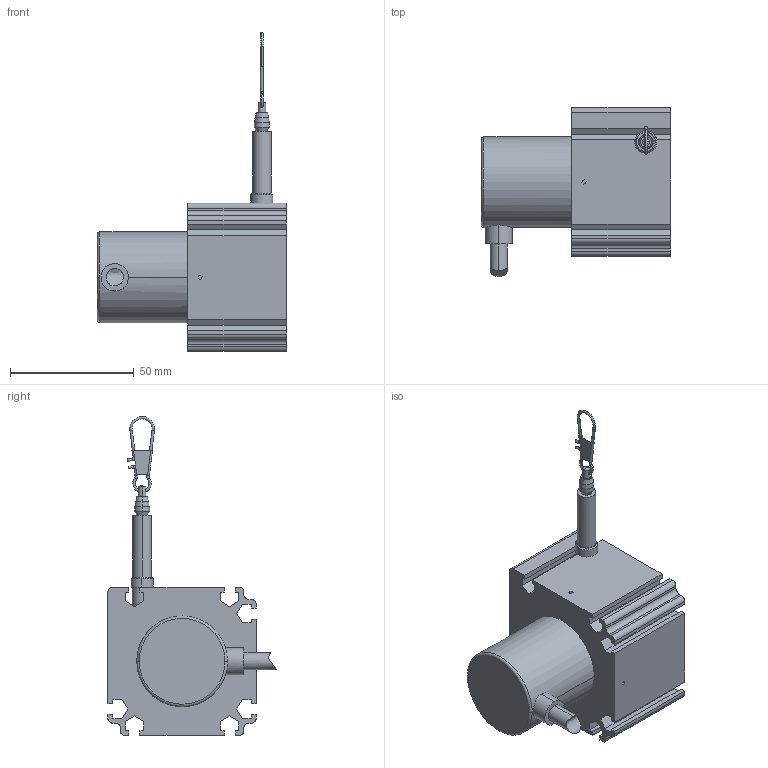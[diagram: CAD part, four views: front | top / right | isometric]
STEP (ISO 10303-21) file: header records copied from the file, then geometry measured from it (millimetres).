
FILE_DESCRIPTION((''),'2;1');
FILE_NAME('','2007-03-21T',(''),(''),'PRO/ENGINEER BY PARAMETRIC TECHNOLOGY CORPORATION, 2003250','PRO/ENGINEER BY PARAMETRIC TECHNOLOGY CORPORATION, 2003250','');
FILE_SCHEMA(('CONFIG_CONTROL_DESIGN'));
Length unit declared in the file: millimetre
Bounding box: 76.5 x 68.01 x 129 mm (x, y, z)
Volume: 80564.2 mm3; surface area: 44407.7 mm2
Topology: 1 solids, 5 shells, 277 faces, 699 edges, 438 vertices
Faces by surface type: plane 133, cylinder 89, cone 34, torus 18, sphere 2, extrusion 1
Entity records: 8538 total; most frequent: CARTESIAN_POINT 1788, DIRECTION 1439, ORIENTED_EDGE 1362, EDGE_CURVE 681, AXIS2_PLACEMENT_3D 513, VERTEX_POINT 438, VECTOR 413, LINE 412
